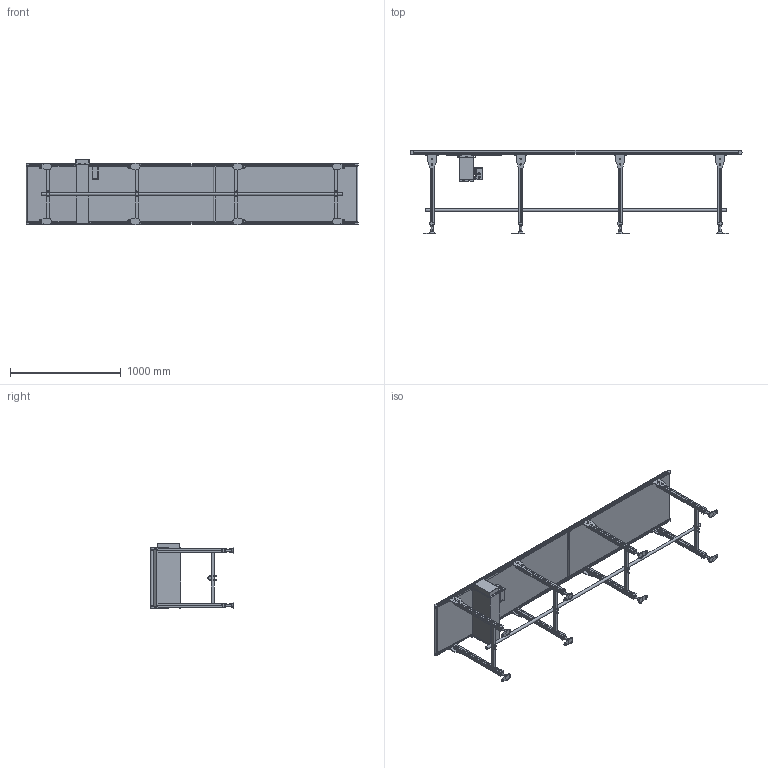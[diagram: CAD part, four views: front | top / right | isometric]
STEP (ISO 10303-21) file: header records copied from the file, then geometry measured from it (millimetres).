
FILE_DESCRIPTION (( 'STEP AP214' ), '1' );
FILE_NAME ('MMX200-SD2-500-3000.STEP', '2023-04-20T08:35:17', ( '' ), ( '' ), 'SwSTEP 2.0', 'SolidWorks 2017', '' );
FILE_SCHEMA (( 'AUTOMOTIVE_DESIGN' ));
Length unit declared in the file: millimetre
Products named in the file (1): MMX200-SD2-500-3000
Bounding box: 3000 x 752 x 594.6 mm (x, y, z)
Volume: 44997764.3 mm3; surface area: 13684669.1 mm2
Topology: 105 solids, 105 shells, 2175 faces, 5098 edges, 3329 vertices
Faces by surface type: plane 1677, cylinder 360, cone 102, torus 20, bspline 11, sphere 5
Full cylindrical faces by diameter (mm): 4 x2, 4.2 x14, 4.3 x2, 4.5 x2, 5 x12, 5.5 x8, 6 x9, 6.5 x2, 7 x12, 8 x18, 8.5 x4, 9 x2, 9.5 x4, 10 x8, 12.2 x40, 12.5 x40, 13 x8, 16 x8, 17 x9, 18 x1, 19 x1, 25.4 x1, 26 x2, 27.2 x2, 30 x8
Entity records: 85848 total; most frequent: CARTESIAN_POINT 12132, DIRECTION 9741, ORIENTED_EDGE 9462, EDGE_CURVE 4731, LINE 3665, VECTOR 3665, VERTEX_POINT 3248, AXIS2_PLACEMENT_3D 3038
